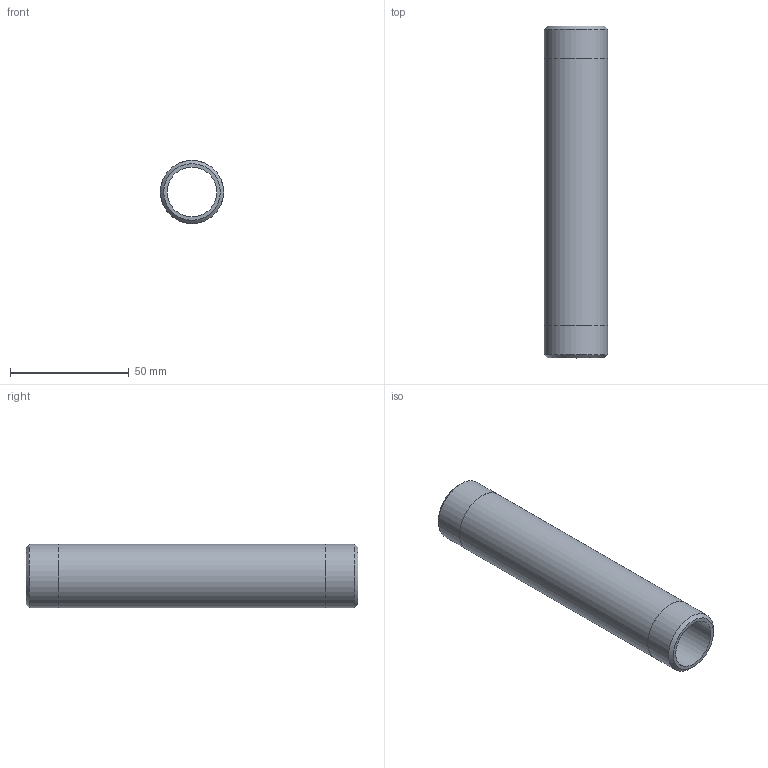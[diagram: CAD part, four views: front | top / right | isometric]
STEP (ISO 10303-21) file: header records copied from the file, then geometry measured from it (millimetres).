
FILE_DESCRIPTION(/* description */ (''),/* implementation_level */ '2;1');
FILE_NAME(/* name */ 'C:/Users/drich/Desktop/SSPN34-5-1_2 v1.step',/* time_stamp */ '2020-01-04T13:43:19-06:00',/* author */ (''),/* organization */ (''),/* preprocessor_version */ 'ST-DEVELOPER v18',/* originating_system */ 'Autodesk Translation Framework v8.12.0.6',/* authorisation */ '');
FILE_SCHEMA (('AUTOMOTIVE_DESIGN { 1 0 10303 214 3 1 1 }'));
Length unit declared in the file: inch
Products named in the file (1): SSPN34-5-1_2
Bounding box: 26.67 x 139.7 x 26.67 mm (x, y, z)
Volume: 29763.6 mm3; surface area: 21173.4 mm2
Topology: 1 solids, 1 shells, 10 faces, 24 edges, 18 vertices
Faces by surface type: cylinder 4, plane 4, cone 2
Full cylindrical faces by diameter (mm): 20.93 x1, 26.619 x2, 26.67 x1
Entity records: 353 total; most frequent: DIRECTION 64, CARTESIAN_POINT 53, ORIENTED_EDGE 48, AXIS2_PLACEMENT_3D 29, EDGE_CURVE 24, CIRCLE 18, VERTEX_POINT 18, EDGE_LOOP 14
